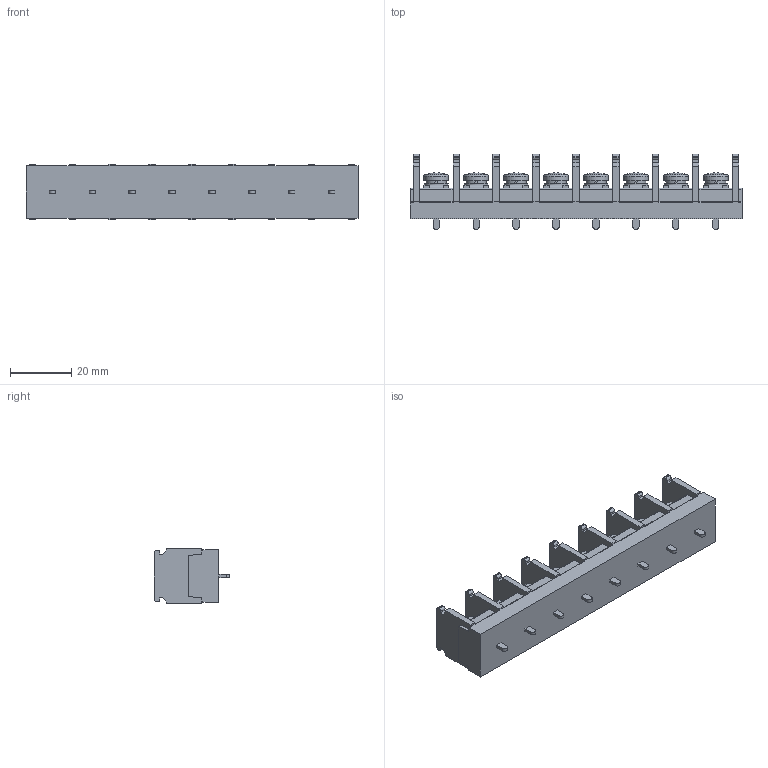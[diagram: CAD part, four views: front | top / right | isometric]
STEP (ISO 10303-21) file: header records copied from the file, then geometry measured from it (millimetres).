
FILE_DESCRIPTION(/* description */ ('Alibre Inc.'),/* implementation_level */ '2;1');
FILE_NAME(/* name */ 'export0',/* time_stamp */ '2016-08-02T19:13:51+09:00',/* author */ (''),/* organization */ (''),/* preprocessor_version */ 'ST-DEVELOPER v14',/* originating_system */ 'Alibre',/* authorisation */ '');
FILE_SCHEMA (('CONFIG_CONTROL_DESIGN'));
Length unit declared in the file: centimetre
Products named in the file (1): ID_1
Bounding box: 108 x 24.5 x 18 mm (x, y, z)
Volume: 22250.8 mm3; surface area: 11878.8 mm2
Topology: 1 solids, 25 shells, 1070 faces, 2840 edges, 1872 vertices
Faces by surface type: plane 770, cylinder 140, bspline 104, cone 40, sphere 8, torus 8
Full cylindrical faces by diameter (mm): 4 x8, 6.5 x8, 7.7 x8, 8 x8
Entity records: 31673 total; most frequent: CARTESIAN_POINT 6779, ORIENTED_EDGE 5552, DIRECTION 4066, EDGE_CURVE 2776, VECTOR 1942, LINE 1942, VERTEX_POINT 1848, AXIS2_PLACEMENT_3D 1421
